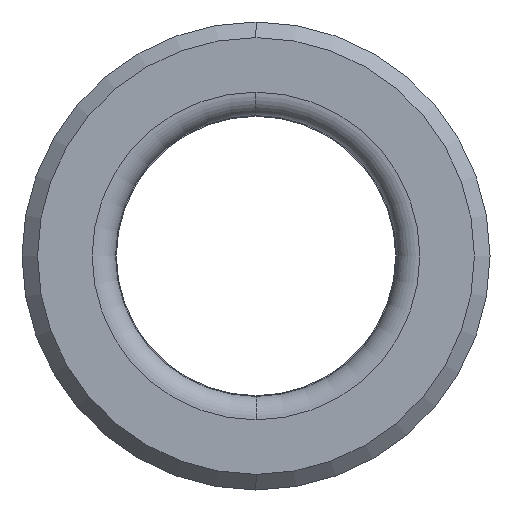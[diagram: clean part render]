
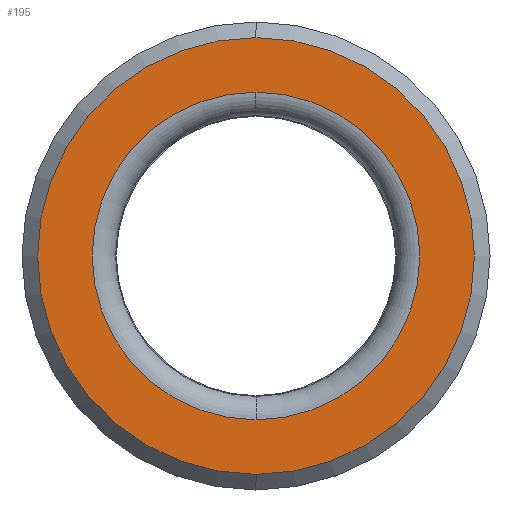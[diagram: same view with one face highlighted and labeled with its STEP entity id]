
A CAD part, left-side view. The second image highlights one B-rep face of the part: STEP entity #195.
In plain terms, the highlighted planar face has unit normal (-1, 0, 0).
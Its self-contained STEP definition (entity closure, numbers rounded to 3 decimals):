
#7 = ORIENTED_EDGE ( 'NONE', *, *, #643, .T. ) ;
#18 = DIRECTION ( 'NONE',  ( 1., 0., 0. ) ) ;
#30 = DIRECTION ( 'NONE',  ( 1., 0., 0. ) ) ;
#49 = CARTESIAN_POINT ( 'NONE',  ( 0.8, 0., 14. ) ) ;
#53 = EDGE_LOOP ( 'NONE', ( #7, #444 ) ) ;
#56 = CIRCLE ( 'NONE', #135, 14. ) ;
#69 = PLANE ( 'NONE',  #412 ) ;
#87 = CARTESIAN_POINT ( 'NONE',  ( 0.8, 0., 0. ) ) ;
#95 = AXIS2_PLACEMENT_3D ( 'NONE', #87, #30, #349 ) ;
#97 = DIRECTION ( 'NONE',  ( 1., 0., 0. ) ) ;
#108 = CARTESIAN_POINT ( 'NONE',  ( 0.8, 0., 0. ) ) ;
#133 = VERTEX_POINT ( 'NONE', #49 ) ;
#135 = AXIS2_PLACEMENT_3D ( 'NONE', #108, #319, #454 ) ;
#176 = CIRCLE ( 'NONE', #95, 10.5 ) ;
#177 = EDGE_LOOP ( 'NONE', ( #685, #623 ) ) ;
#195 = ADVANCED_FACE ( 'NONE', ( #708, #327 ), #69, .F. ) ;
#257 = CARTESIAN_POINT ( 'NONE',  ( 0.8, 0., 0. ) ) ;
#268 = DIRECTION ( 'NONE',  ( -1., 0., 0. ) ) ;
#292 = DIRECTION ( 'NONE',  ( 0., 0., -1. ) ) ;
#311 = VERTEX_POINT ( 'NONE', #642 ) ;
#315 = CARTESIAN_POINT ( 'NONE',  ( 0.8, 15., 0. ) ) ;
#319 = DIRECTION ( 'NONE',  ( -1., 0., 0. ) ) ;
#327 = FACE_OUTER_BOUND ( 'NONE', #177, .T. ) ;
#349 = DIRECTION ( 'NONE',  ( 0., 0., -1. ) ) ;
#350 = DIRECTION ( 'NONE',  ( 0., 0., -1. ) ) ;
#382 = CARTESIAN_POINT ( 'NONE',  ( 0.8, 0., 10.5 ) ) ;
#392 = CIRCLE ( 'NONE', #500, 10.5 ) ;
#397 = AXIS2_PLACEMENT_3D ( 'NONE', #557, #268, #292 ) ;
#412 = AXIS2_PLACEMENT_3D ( 'NONE', #315, #18, #421 ) ;
#421 = DIRECTION ( 'NONE',  ( 0., 0., -1. ) ) ;
#442 = CARTESIAN_POINT ( 'NONE',  ( 0.8, 0., -14. ) ) ;
#444 = ORIENTED_EDGE ( 'NONE', *, *, #480, .T. ) ;
#454 = DIRECTION ( 'NONE',  ( 0., 0., -1. ) ) ;
#480 = EDGE_CURVE ( 'NONE', #553, #311, #176, .T. ) ;
#490 = EDGE_CURVE ( 'NONE', #133, #565, #56, .T. ) ;
#500 = AXIS2_PLACEMENT_3D ( 'NONE', #257, #97, #350 ) ;
#531 = CIRCLE ( 'NONE', #397, 14. ) ;
#553 = VERTEX_POINT ( 'NONE', #382 ) ;
#557 = CARTESIAN_POINT ( 'NONE',  ( 0.8, 0., 0. ) ) ;
#565 = VERTEX_POINT ( 'NONE', #442 ) ;
#587 = EDGE_CURVE ( 'NONE', #565, #133, #531, .T. ) ;
#623 = ORIENTED_EDGE ( 'NONE', *, *, #490, .T. ) ;
#642 = CARTESIAN_POINT ( 'NONE',  ( 0.8, 0., -10.5 ) ) ;
#643 = EDGE_CURVE ( 'NONE', #311, #553, #392, .T. ) ;
#685 = ORIENTED_EDGE ( 'NONE', *, *, #587, .T. ) ;
#708 = FACE_BOUND ( 'NONE', #53, .T. ) ;
